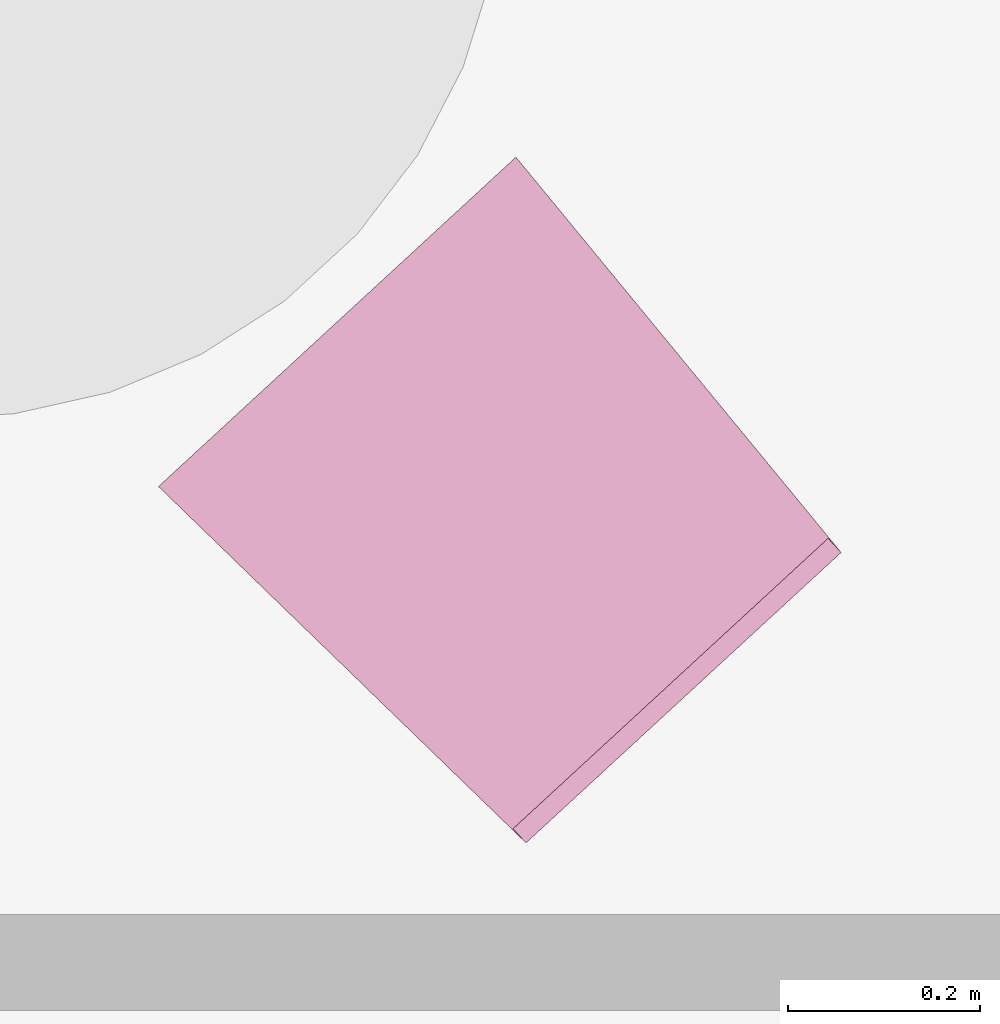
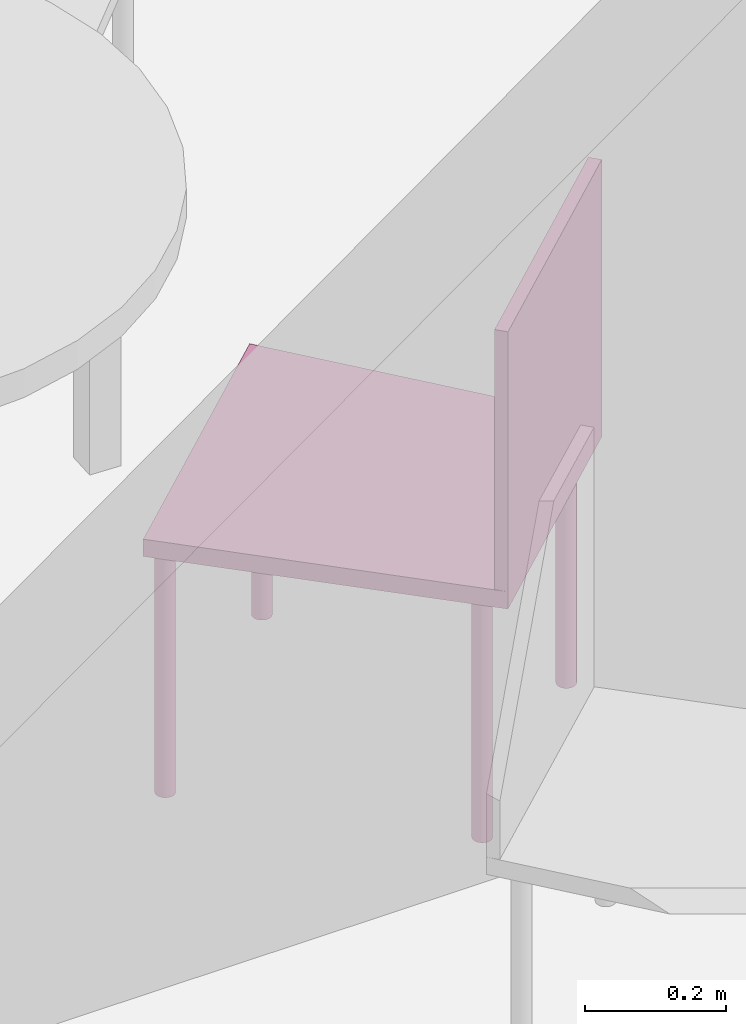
"""IFC4 building model written with IfcOpenShell, lengths in metres."""

from ifc_helpers import new_model, entity, si_unit, converted_unit, derived_unit, frame, origin, place, context, subcontext, project, spatial, faceted_brep, element, save


model = new_model("IFC4")

# Units and contexts
model_context = context("Model", 3, precision=1e-05, world=origin())
body_context = subcontext(model_context, "Body", "Model", "MODEL_VIEW")
ifc_project = project(units=[si_unit("LENGTHUNIT", "METRE"), si_unit("AREAUNIT", "SQUARE_METRE"), si_unit("VOLUMEUNIT", "CUBIC_METRE"), si_unit("MASSUNIT", "GRAM", prefix="KILO"), converted_unit("PLANEANGLEUNIT", "DEGREE", entity("IfcPlaneAngleMeasure", 0.0174532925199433), si_unit("PLANEANGLEUNIT", "RADIAN"), dimensions=[0, 0, 0, 0, 0, 0, 0]), derived_unit("THERMALTRANSMITTANCEUNIT", [(si_unit("POWERUNIT", "WATT"), 1), (si_unit("THERMODYNAMICTEMPERATUREUNIT", "KELVIN"), -1), (si_unit("LENGTHUNIT", "METRE"), -2)]), derived_unit("VOLUMETRICFLOWRATEUNIT", [(si_unit("LENGTHUNIT", "METRE"), 3), (converted_unit("TIMEUNIT", "hour", entity("IfcTimeMeasure", 3600.0), si_unit("TIMEUNIT", "SECOND"), dimensions=[0, 0, 1, 0, 0, 0, 0]), -1), (si_unit("LENGTHUNIT", "METRE"), -1)])], contexts=[model_context])

# Building, storeys
building_placement = place(None, origin())
building = spatial("IfcBuilding", under=ifc_project, at=building_placement, Name="HABITATGE PLURIFAMILIAR", CompositionType="ELEMENT")
storey_1_placement = place(building_placement, frame((0.0, 0.0, 12.27)))
storey_1 = spatial("IfcBuildingStorey", under=building, at=storey_1_placement, Name="PLANTA TERCERA", CompositionType="ELEMENT", Elevation=12.27)
storey_2_placement = place(storey_1_placement, frame((0.0, 0.0, 9.26)))
storey_2 = spatial("IfcBuildingStorey", under=storey_1, at=storey_2_placement, Name="NOU", CompositionType="PARTIAL")

# Furniture
furniture_placement = place(storey_2_placement, frame((402.512543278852, 22.6202531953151, -9.36074913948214)))
element("IfcFurniture", 1, at=furniture_placement, inside=storey_2, Name="Cadira confident_P3", context=body_context, shape_type="Brep", body=[
    faceted_brep([(0.0238315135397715, 0.359177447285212, 0.0), (0.0257552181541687, 0.357422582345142, 0.0), (0.0279544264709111, 0.35602842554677, 0.0), (0.0303623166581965, 0.355037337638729, 0.0), (0.0329057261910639, 0.354479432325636, 0.0), (0.035507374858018, 0.354371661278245, 0.0), (0.0380882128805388, 0.354717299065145, 0.0), (0.0405698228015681, 0.355505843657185, 0.0), (0.0428768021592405, 0.356713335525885, 0.0), (0.0449390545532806, 0.358303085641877, 0.0), (0.0466939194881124, 0.360226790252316, 0.0), (0.0480880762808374, 0.36242599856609, 0.0), (0.0490791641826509, 0.364833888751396, 0.0), (0.0496370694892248, 0.367377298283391, 0.0), (0.0497448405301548, 0.369978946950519, 0.0), (0.0493992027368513, 0.372559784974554, 0.0), (0.048610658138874, 0.375041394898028, 0.0), (0.0474031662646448, 0.377348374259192, 0.0), (0.0458134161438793, 0.379410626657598, 0.0), (0.0438897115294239, 0.381165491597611, 0.0), (0.0416905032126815, 0.38255964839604, 0.0), (0.0392826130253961, 0.383550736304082, 0.0), (0.0367392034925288, 0.384108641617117, 0.0), (0.0341375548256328, 0.384216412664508, 0.0), (0.0315567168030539, 0.383870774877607, 0.0), (0.0290751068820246, 0.383082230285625, 0.0), (0.026768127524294, 0.381874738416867, 0.0), (0.0247058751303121, 0.380284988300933, 0.0), (0.022951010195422, 0.378361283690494, 0.0), (0.0215568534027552, 0.37616207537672, 0.0), (0.0205657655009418, 0.373754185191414, 0.0), (0.020007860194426, 0.37121077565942, 0.0), (0.0199000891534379, 0.368609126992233, 0.0), (0.0202457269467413, 0.366028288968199, 0.0), (0.0210342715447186, 0.363546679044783, 0.0), (0.0222417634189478, 0.36123969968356, 0.0), (0.0238315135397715, 0.359177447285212, 0.448281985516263), (0.0222417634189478, 0.36123969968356, 0.448281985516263), (0.0210342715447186, 0.363546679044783, 0.448281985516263), (0.0202457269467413, 0.366028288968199, 0.448281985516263), (0.0199000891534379, 0.368609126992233, 0.448281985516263), (0.020007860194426, 0.37121077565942, 0.448281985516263), (0.0205657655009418, 0.373754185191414, 0.448281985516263), (0.0215568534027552, 0.37616207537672, 0.448281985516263), (0.022951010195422, 0.378361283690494, 0.448281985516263), (0.0247058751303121, 0.380284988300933, 0.448281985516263), (0.026768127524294, 0.381874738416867, 0.448281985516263), (0.0290751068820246, 0.383082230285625, 0.448281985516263), (0.0315567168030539, 0.383870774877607, 0.448281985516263), (0.0341375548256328, 0.384216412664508, 0.448281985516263), (0.0367392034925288, 0.384108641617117, 0.448281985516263), (0.0392826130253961, 0.383550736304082, 0.448281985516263), (0.0416905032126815, 0.38255964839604, 0.448281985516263), (0.0438897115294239, 0.381165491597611, 0.448281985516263), (0.0458134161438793, 0.379410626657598, 0.448281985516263), (0.0474031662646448, 0.377348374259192, 0.448281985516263), (0.048610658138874, 0.375041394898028, 0.448281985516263), (0.0493992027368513, 0.372559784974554, 0.448281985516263), (0.0497448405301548, 0.369978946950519, 0.448281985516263), (0.0496370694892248, 0.367377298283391, 0.448281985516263), (0.0490791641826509, 0.364833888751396, 0.448281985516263), (0.0480880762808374, 0.36242599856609, 0.448281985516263), (0.0466939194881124, 0.360226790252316, 0.448281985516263), (0.0449390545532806, 0.358303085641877, 0.448281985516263), (0.0428768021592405, 0.356713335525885, 0.448281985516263), (0.0405698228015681, 0.355505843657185, 0.448281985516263), (0.0380882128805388, 0.354717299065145, 0.448281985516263), (0.035507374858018, 0.354371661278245, 0.448281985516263), (0.0329057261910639, 0.354479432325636, 0.448281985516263), (0.0303623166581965, 0.355037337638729, 0.448281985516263), (0.0279544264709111, 0.35602842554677, 0.448281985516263), (0.0257552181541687, 0.357422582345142, 0.448281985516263)], [[[0, 1, 2, 3, 4, 5, 6, 7, 8, 9, 10, 11, 12, 13, 14, 15, 16, 17, 18, 19, 20, 21, 22, 23, 24, 25, 26, 27, 28, 29, 30, 31, 32, 33, 34, 35]], [[36, 37, 38, 39, 40, 41, 42, 43, 44, 45, 46, 47, 48, 49, 50, 51, 52, 53, 54, 55, 56, 57, 58, 59, 60, 61, 62, 63, 64, 65, 66, 67, 68, 69, 70, 71]], [[1, 0, 36, 71]], [[2, 1, 71, 70]], [[3, 2, 70, 69]], [[4, 3, 69, 68]], [[5, 4, 68, 67]], [[6, 5, 67, 66]], [[7, 6, 66, 65]], [[8, 7, 65, 64]], [[9, 8, 64, 63]], [[10, 9, 63, 62]], [[11, 10, 62, 61]], [[12, 11, 61, 60]], [[13, 12, 60, 59]], [[14, 13, 59, 58]], [[15, 14, 58, 57]], [[16, 15, 57, 56]], [[17, 16, 56, 55]], [[18, 17, 55, 54]], [[19, 18, 54, 53]], [[20, 19, 53, 52]], [[21, 20, 52, 51]], [[22, 21, 51, 50]], [[23, 22, 50, 49]], [[24, 23, 49, 48]], [[25, 24, 48, 47]], [[26, 25, 47, 46]], [[27, 26, 46, 45]], [[28, 27, 45, 44]], [[29, 28, 44, 43]], [[30, 29, 43, 42]], [[31, 30, 42, 41]], [[32, 31, 41, 40]], [[33, 32, 40, 39]], [[34, 33, 39, 38]], [[35, 34, 38, 37]], [[0, 35, 37, 36]]], orient=[[False], [False], [False], [False], [False], [False], [False], [False], [False], [False], [False], [False], [False], [False], [False], [False], [False], [False], [False], [False], [False], [False], [False], [False], [False], [False], [False], [False], [False], [False], [False], [False], [False], [False], [False], [False], [False], [False]]),
    faceted_brep([(0.357513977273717, 0.0378673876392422, 0.0), (0.359437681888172, 0.0361125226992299, 0.0), (0.361636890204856, 0.0347183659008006, 0.0), (0.3640447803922, 0.0337272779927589, 0.0), (0.366588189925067, 0.0331693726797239, 0.0), (0.369189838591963, 0.0330616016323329, 0.0), (0.371770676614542, 0.0334072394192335, 0.0), (0.374252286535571, 0.0341957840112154, 0.0), (0.376559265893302, 0.0354032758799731, 0.0), (0.378621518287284, 0.0369930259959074, 0.0), (0.380376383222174, 0.0389167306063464, 0.0), (0.381770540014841, 0.0411159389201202, 0.0), (0.382761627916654, 0.0435238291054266, 0.0), (0.38331953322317, 0.0460672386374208, 0.0), (0.383427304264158, 0.0486688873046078, 0.0), (0.383081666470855, 0.0512497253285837, 0.0), (0.382293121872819, 0.0537313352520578, 0.0), (0.381085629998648, 0.0560383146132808, 0.0), (0.379495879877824, 0.0581005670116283, 0.0), (0.377572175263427, 0.0598554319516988, 0.0), (0.375372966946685, 0.06124958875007, 0.0), (0.372965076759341, 0.0622406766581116, 0.0), (0.370421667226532, 0.0627985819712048, 0.0), (0.367820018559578, 0.0629063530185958, 0.0), (0.365239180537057, 0.0625607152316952, 0.0), (0.362757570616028, 0.0617721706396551, 0.0), (0.360450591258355, 0.0605646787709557, 0.0), (0.358388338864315, 0.0589749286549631, 0.0), (0.356633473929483, 0.0570512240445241, 0.0), (0.355239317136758, 0.0548520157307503, 0.0), (0.354248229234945, 0.052444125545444, 0.0), (0.353690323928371, 0.0499007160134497, 0.0), (0.353582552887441, 0.0472990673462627, 0.0), (0.353928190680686, 0.0447182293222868, 0.0), (0.354716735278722, 0.0422366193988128, 0.0), (0.355924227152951, 0.0399296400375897, 0.0), (0.357513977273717, 0.0378673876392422, 0.448281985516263), (0.355924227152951, 0.0399296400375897, 0.448281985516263), (0.354716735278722, 0.0422366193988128, 0.448281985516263), (0.353928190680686, 0.0447182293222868, 0.448281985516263), (0.353582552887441, 0.0472990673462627, 0.448281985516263), (0.353690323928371, 0.0499007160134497, 0.448281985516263), (0.354248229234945, 0.052444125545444, 0.448281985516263), (0.355239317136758, 0.0548520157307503, 0.448281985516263), (0.356633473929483, 0.0570512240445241, 0.448281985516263), (0.358388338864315, 0.0589749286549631, 0.448281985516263), (0.360450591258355, 0.0605646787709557, 0.448281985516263), (0.362757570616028, 0.0617721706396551, 0.448281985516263), (0.365239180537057, 0.0625607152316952, 0.448281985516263), (0.367820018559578, 0.0629063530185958, 0.448281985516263), (0.370421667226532, 0.0627985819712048, 0.448281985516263), (0.372965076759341, 0.0622406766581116, 0.448281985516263), (0.375372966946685, 0.06124958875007, 0.448281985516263), (0.377572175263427, 0.0598554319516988, 0.448281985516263), (0.379495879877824, 0.0581005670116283, 0.448281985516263), (0.381085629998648, 0.0560383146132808, 0.448281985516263), (0.382293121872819, 0.0537313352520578, 0.448281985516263), (0.383081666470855, 0.0512497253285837, 0.448281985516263), (0.383427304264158, 0.0486688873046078, 0.448281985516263), (0.38331953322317, 0.0460672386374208, 0.448281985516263), (0.382761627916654, 0.0435238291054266, 0.448281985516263), (0.381770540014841, 0.0411159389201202, 0.448281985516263), (0.380376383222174, 0.0389167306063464, 0.448281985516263), (0.378621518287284, 0.0369930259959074, 0.448281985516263), (0.376559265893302, 0.0354032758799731, 0.448281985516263), (0.374252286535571, 0.0341957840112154, 0.448281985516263), (0.371770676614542, 0.0334072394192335, 0.448281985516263), (0.369189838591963, 0.0330616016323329, 0.448281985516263), (0.366588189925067, 0.0331693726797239, 0.448281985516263), (0.3640447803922, 0.0337272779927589, 0.448281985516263), (0.361636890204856, 0.0347183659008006, 0.448281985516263), (0.359437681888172, 0.0361125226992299, 0.448281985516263)], [[[0, 1, 2, 3, 4, 5, 6, 7, 8, 9, 10, 11, 12, 13, 14, 15, 16, 17, 18, 19, 20, 21, 22, 23, 24, 25, 26, 27, 28, 29, 30, 31, 32, 33, 34, 35]], [[36, 37, 38, 39, 40, 41, 42, 43, 44, 45, 46, 47, 48, 49, 50, 51, 52, 53, 54, 55, 56, 57, 58, 59, 60, 61, 62, 63, 64, 65, 66, 67, 68, 69, 70, 71]], [[1, 0, 36, 71]], [[2, 1, 71, 70]], [[3, 2, 70, 69]], [[4, 3, 69, 68]], [[5, 4, 68, 67]], [[6, 5, 67, 66]], [[7, 6, 66, 65]], [[8, 7, 65, 64]], [[9, 8, 64, 63]], [[10, 9, 63, 62]], [[11, 10, 62, 61]], [[12, 11, 61, 60]], [[13, 12, 60, 59]], [[14, 13, 59, 58]], [[15, 14, 58, 57]], [[16, 15, 57, 56]], [[17, 16, 56, 55]], [[18, 17, 55, 54]], [[19, 18, 54, 53]], [[20, 19, 53, 52]], [[21, 20, 52, 51]], [[22, 21, 51, 50]], [[23, 22, 50, 49]], [[24, 23, 49, 48]], [[25, 24, 48, 47]], [[26, 25, 47, 46]], [[27, 26, 46, 45]], [[28, 27, 45, 44]], [[29, 28, 44, 43]], [[30, 29, 43, 42]], [[31, 30, 42, 41]], [[32, 31, 41, 40]], [[33, 32, 40, 39]], [[34, 33, 39, 38]], [[35, 34, 38, 37]], [[0, 35, 37, 36]]], orient=[[False], [False], [False], [False], [False], [False], [False], [False], [False], [False], [False], [False], [False], [False], [False], [False], [False], [False], [False], [False], [False], [False], [False], [False], [False], [False], [False], [False], [False], [False], [False], [False], [False], [False], [False], [False], [False], [False]]),
    faceted_brep([(0.3621008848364, 0.670904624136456, 0.0), (0.364024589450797, 0.669149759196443, 0.0), (0.366223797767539, 0.667755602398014, 0.0), (0.368631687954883, 0.666764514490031, 0.0), (0.37117509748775, 0.666206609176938, 0.0), (0.373776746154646, 0.666098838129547, 0.0), (0.376357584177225, 0.666444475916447, 0.0), (0.378839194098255, 0.667233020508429, 0.0), (0.381146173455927, 0.668440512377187, 0.0), (0.383208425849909, 0.670030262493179, 0.0), (0.384963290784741, 0.67195396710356, 0.0), (0.386357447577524, 0.674153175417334, 0.0), (0.387348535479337, 0.67656106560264, 0.0), (0.387906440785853, 0.679104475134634, 0.0), (0.388014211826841, 0.681706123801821, 0.0), (0.387668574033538, 0.684286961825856, 0.0), (0.386880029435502, 0.686768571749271, 0.0), (0.385672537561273, 0.689075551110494, 0.0), (0.384082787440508, 0.691137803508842, 0.0), (0.382159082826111, 0.692892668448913, 0.0), (0.379959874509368, 0.694286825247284, 0.0), (0.377551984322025, 0.695277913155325, 0.0), (0.375008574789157, 0.695835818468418, 0.0), (0.372406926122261, 0.695943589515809, 0.0), (0.36982608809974, 0.695597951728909, 0.0), (0.367344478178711, 0.694809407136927, 0.0), (0.365037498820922, 0.693601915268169, 0.0), (0.362975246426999, 0.692012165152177, 0.0), (0.361220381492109, 0.690088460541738, 0.0), (0.359826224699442, 0.687889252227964, 0.0), (0.358835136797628, 0.685481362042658, 0.0), (0.358277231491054, 0.682937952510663, 0.0), (0.358169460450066, 0.680336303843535, 0.0), (0.35851509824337, 0.6777554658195, 0.0), (0.359303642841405, 0.675273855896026, 0.0), (0.360511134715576, 0.672966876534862, 0.0), (0.3621008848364, 0.670904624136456, 0.448281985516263), (0.360511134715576, 0.672966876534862, 0.448281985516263), (0.359303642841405, 0.675273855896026, 0.448281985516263), (0.35851509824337, 0.6777554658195, 0.448281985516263), (0.358169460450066, 0.680336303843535, 0.448281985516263), (0.358277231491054, 0.682937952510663, 0.448281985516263), (0.358835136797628, 0.685481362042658, 0.448281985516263), (0.359826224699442, 0.687889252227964, 0.448281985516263), (0.361220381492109, 0.690088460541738, 0.448281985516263), (0.362975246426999, 0.692012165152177, 0.448281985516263), (0.365037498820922, 0.693601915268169, 0.448281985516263), (0.367344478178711, 0.694809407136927, 0.448281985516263), (0.36982608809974, 0.695597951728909, 0.448281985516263), (0.372406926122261, 0.695943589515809, 0.448281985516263), (0.375008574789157, 0.695835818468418, 0.448281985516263), (0.377551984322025, 0.695277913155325, 0.448281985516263), (0.379959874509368, 0.694286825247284, 0.448281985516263), (0.382159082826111, 0.692892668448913, 0.448281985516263), (0.384082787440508, 0.691137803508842, 0.448281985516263), (0.385672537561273, 0.689075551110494, 0.448281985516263), (0.386880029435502, 0.686768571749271, 0.448281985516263), (0.387668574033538, 0.684286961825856, 0.448281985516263), (0.388014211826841, 0.681706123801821, 0.448281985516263), (0.387906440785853, 0.679104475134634, 0.448281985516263), (0.387348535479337, 0.67656106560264, 0.448281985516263), (0.386357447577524, 0.674153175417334, 0.448281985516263), (0.384963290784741, 0.67195396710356, 0.448281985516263), (0.383208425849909, 0.670030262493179, 0.448281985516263), (0.381146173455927, 0.668440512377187, 0.448281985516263), (0.378839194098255, 0.667233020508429, 0.448281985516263), (0.376357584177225, 0.666444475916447, 0.448281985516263), (0.373776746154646, 0.666098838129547, 0.448281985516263), (0.37117509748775, 0.666206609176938, 0.448281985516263), (0.368631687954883, 0.666764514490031, 0.448281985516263), (0.366223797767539, 0.667755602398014, 0.448281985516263), (0.364024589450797, 0.669149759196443, 0.448281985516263)], [[[0, 1, 2, 3, 4, 5, 6, 7, 8, 9, 10, 11, 12, 13, 14, 15, 16, 17, 18, 19, 20, 21, 22, 23, 24, 25, 26, 27, 28, 29, 30, 31, 32, 33, 34, 35]], [[36, 37, 38, 39, 40, 41, 42, 43, 44, 45, 46, 47, 48, 49, 50, 51, 52, 53, 54, 55, 56, 57, 58, 59, 60, 61, 62, 63, 64, 65, 66, 67, 68, 69, 70, 71]], [[1, 0, 36, 71]], [[2, 1, 71, 70]], [[3, 2, 70, 69]], [[4, 3, 69, 68]], [[5, 4, 68, 67]], [[6, 5, 67, 66]], [[7, 6, 66, 65]], [[8, 7, 65, 64]], [[9, 8, 64, 63]], [[10, 9, 63, 62]], [[11, 10, 62, 61]], [[12, 11, 61, 60]], [[13, 12, 60, 59]], [[14, 13, 59, 58]], [[15, 14, 58, 57]], [[16, 15, 57, 56]], [[17, 16, 56, 55]], [[18, 17, 55, 54]], [[19, 18, 54, 53]], [[20, 19, 53, 52]], [[21, 20, 52, 51]], [[22, 21, 51, 50]], [[23, 22, 50, 49]], [[24, 23, 49, 48]], [[25, 24, 48, 47]], [[26, 25, 47, 46]], [[27, 26, 46, 45]], [[28, 27, 45, 44]], [[29, 28, 44, 43]], [[30, 29, 43, 42]], [[31, 30, 42, 41]], [[32, 31, 41, 40]], [[33, 32, 40, 39]], [[34, 33, 39, 38]], [[35, 34, 38, 37]], [[0, 35, 37, 36]]], orient=[[False], [False], [False], [False], [False], [False], [False], [False], [False], [False], [False], [False], [False], [False], [False], [False], [False], [False], [False], [False], [False], [False], [False], [False], [False], [False], [False], [False], [False], [False], [False], [False], [False], [False], [False], [False], [False], [False]]),
    faceted_brep([(0.651661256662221, 0.308934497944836, 0.0), (0.653584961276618, 0.307179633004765, 0.0), (0.65578416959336, 0.305785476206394, 0.0), (0.658192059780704, 0.304794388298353, 0.0), (0.660735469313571, 0.304236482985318, 0.0), (0.663337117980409, 0.304128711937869, 0.0), (0.665917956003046, 0.304474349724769, 0.0), (0.668399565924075, 0.305262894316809, 0.0), (0.670706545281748, 0.306470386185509, 0.0), (0.67276879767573, 0.308060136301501, 0.0), (0.674523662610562, 0.30998384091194, 0.0), (0.675917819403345, 0.312183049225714, 0.0), (0.676908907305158, 0.314590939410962, 0.0), (0.677466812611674, 0.317134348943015, 0.0), (0.677574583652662, 0.319735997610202, 0.0), (0.677228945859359, 0.322316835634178, 0.0), (0.676440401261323, 0.324798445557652, 0.0), (0.675232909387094, 0.327105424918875, 0.0), (0.673643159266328, 0.329167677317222, 0.0), (0.671719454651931, 0.330922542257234, 0.0), (0.669520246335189, 0.332316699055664, 0.0), (0.667112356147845, 0.333307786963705, 0.0), (0.664568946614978, 0.33386569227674, 0.0), (0.661967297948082, 0.33397346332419, 0.0), (0.659386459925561, 0.333627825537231, 0.0), (0.656904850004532, 0.332839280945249, 0.0), (0.654597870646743, 0.331631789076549, 0.0), (0.652535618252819, 0.330042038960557, 0.0), (0.650780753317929, 0.328118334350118, 0.0), (0.649386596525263, 0.325919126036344, 0.0), (0.648395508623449, 0.323511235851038, 0.0), (0.647837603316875, 0.320967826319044, 0.0), (0.647729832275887, 0.318366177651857, 0.0), (0.648075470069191, 0.315785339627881, 0.0), (0.648864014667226, 0.313303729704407, 0.0), (0.650071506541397, 0.310996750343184, 0.0), (0.651661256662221, 0.308934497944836, 0.448281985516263), (0.650071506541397, 0.310996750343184, 0.448281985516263), (0.648864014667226, 0.313303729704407, 0.448281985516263), (0.648075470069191, 0.315785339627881, 0.448281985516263), (0.647729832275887, 0.318366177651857, 0.448281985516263), (0.647837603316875, 0.320967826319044, 0.448281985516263), (0.648395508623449, 0.323511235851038, 0.448281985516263), (0.649386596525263, 0.325919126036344, 0.448281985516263), (0.650780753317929, 0.328118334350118, 0.448281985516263), (0.652535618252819, 0.330042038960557, 0.448281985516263), (0.654597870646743, 0.331631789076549, 0.448281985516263), (0.656904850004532, 0.332839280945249, 0.448281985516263), (0.659386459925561, 0.333627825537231, 0.448281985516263), (0.661967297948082, 0.33397346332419, 0.448281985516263), (0.664568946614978, 0.33386569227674, 0.448281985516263), (0.667112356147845, 0.333307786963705, 0.448281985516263), (0.669520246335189, 0.332316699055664, 0.448281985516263), (0.671719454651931, 0.330922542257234, 0.448281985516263), (0.673643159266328, 0.329167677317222, 0.448281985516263), (0.675232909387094, 0.327105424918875, 0.448281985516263), (0.676440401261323, 0.324798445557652, 0.448281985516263), (0.677228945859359, 0.322316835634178, 0.448281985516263), (0.677574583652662, 0.319735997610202, 0.448281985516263), (0.677466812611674, 0.317134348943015, 0.448281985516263), (0.676908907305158, 0.314590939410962, 0.448281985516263), (0.675917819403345, 0.312183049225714, 0.448281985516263), (0.674523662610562, 0.30998384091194, 0.448281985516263), (0.67276879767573, 0.308060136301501, 0.448281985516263), (0.670706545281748, 0.306470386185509, 0.448281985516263), (0.668399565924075, 0.305262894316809, 0.448281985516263), (0.665917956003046, 0.304474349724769, 0.448281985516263), (0.663337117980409, 0.304128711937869, 0.448281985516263), (0.660735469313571, 0.304236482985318, 0.448281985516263), (0.658192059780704, 0.304794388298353, 0.448281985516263), (0.65578416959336, 0.305785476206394, 0.448281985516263), (0.653584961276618, 0.307179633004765, 0.448281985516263)], [[[0, 1, 2, 3, 4, 5, 6, 7, 8, 9, 10, 11, 12, 13, 14, 15, 16, 17, 18, 19, 20, 21, 22, 23, 24, 25, 26, 27, 28, 29, 30, 31, 32, 33, 34, 35]], [[36, 37, 38, 39, 40, 41, 42, 43, 44, 45, 46, 47, 48, 49, 50, 51, 52, 53, 54, 55, 56, 57, 58, 59, 60, 61, 62, 63, 64, 65, 66, 67, 68, 69, 70, 71]], [[1, 0, 36, 71]], [[2, 1, 71, 70]], [[3, 2, 70, 69]], [[4, 3, 69, 68]], [[5, 4, 68, 67]], [[6, 5, 67, 66]], [[7, 6, 66, 65]], [[8, 7, 65, 64]], [[9, 8, 64, 63]], [[10, 9, 63, 62]], [[11, 10, 62, 61]], [[12, 11, 61, 60]], [[13, 12, 60, 59]], [[14, 13, 59, 58]], [[15, 14, 58, 57]], [[16, 15, 57, 56]], [[17, 16, 56, 55]], [[18, 17, 55, 54]], [[19, 18, 54, 53]], [[20, 19, 53, 52]], [[21, 20, 52, 51]], [[22, 21, 51, 50]], [[23, 22, 50, 49]], [[24, 23, 49, 48]], [[25, 24, 48, 47]], [[26, 25, 47, 46]], [[27, 26, 46, 45]], [[28, 27, 45, 44]], [[29, 28, 44, 43]], [[30, 29, 43, 42]], [[31, 30, 42, 41]], [[32, 31, 41, 40]], [[33, 32, 40, 39]], [[34, 33, 39, 38]], [[35, 34, 38, 37]], [[0, 35, 37, 36]]], orient=[[False], [False], [False], [False], [False], [False], [False], [False], [False], [False], [False], [False], [False], [False], [False], [False], [False], [False], [False], [False], [False], [False], [False], [False], [False], [False], [False], [False], [False], [False], [False], [False], [False], [False], [False], [False], [False], [False]]),
    faceted_brep([(0.71134496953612, 0.302588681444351, 0.418281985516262), (0.372474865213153, 0.714581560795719, 0.418281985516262), (0.0, 0.371332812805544, 0.418281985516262), (0.382992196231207, 0.0, 0.418281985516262), (0.372474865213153, 0.714581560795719, 0.448281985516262), (0.71134496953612, 0.302588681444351, 0.448281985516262), (0.382992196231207, 0.0, 0.448281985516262), (0.0, 0.371332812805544, 0.448281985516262)], [[[0, 1, 2, 3]], [[4, 5, 6, 7]], [[1, 0, 5, 4]], [[2, 1, 4, 7]], [[3, 2, 7, 6]], [[0, 3, 6, 5]]], orient=[[False], [False], [False], [False], [False], [False]]),
    faceted_brep([(0.697791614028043, 0.317296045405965, 0.448281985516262), (0.369438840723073, 0.0147073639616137, 0.448281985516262), (0.382992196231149, 0.0, 0.448281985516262), (0.711344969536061, 0.302588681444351, 0.448281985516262), (0.369438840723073, 0.0147073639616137, 0.89828198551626), (0.697791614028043, 0.317296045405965, 0.89828198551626), (0.711344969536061, 0.302588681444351, 0.89828198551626), (0.382992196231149, 0.0, 0.89828198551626)], [[[0, 1, 2, 3]], [[4, 5, 6, 7]], [[1, 0, 5, 4]], [[2, 1, 4, 7]], [[3, 2, 7, 6]], [[0, 3, 6, 5]]], orient=[[False], [False], [False], [False], [False], [False]]),
])

save(model, "model.ifc")
